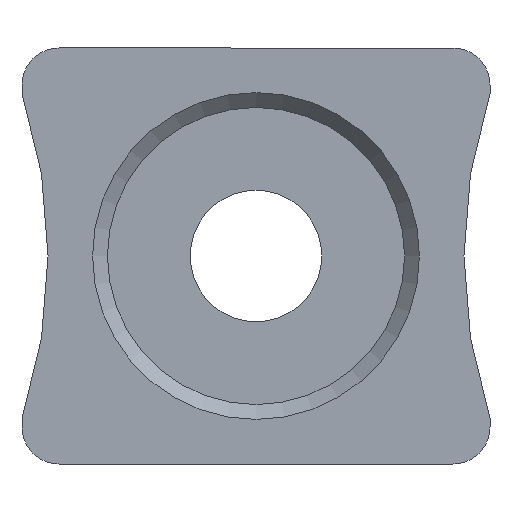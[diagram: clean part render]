
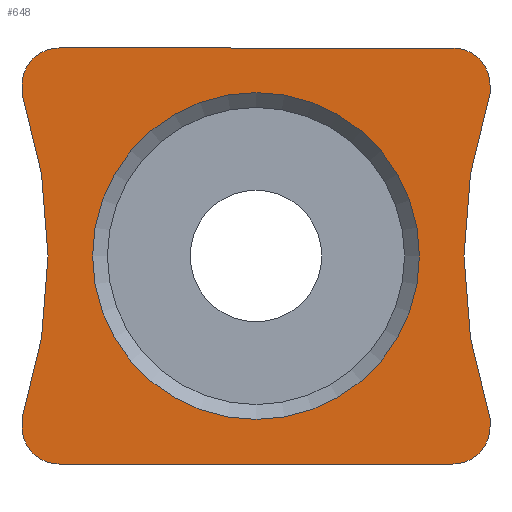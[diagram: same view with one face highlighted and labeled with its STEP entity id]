
A CAD part, left-side view. The second image highlights one B-rep face of the part: STEP entity #648.
In plain terms, the highlighted planar face has unit normal (-1, 0, 0).
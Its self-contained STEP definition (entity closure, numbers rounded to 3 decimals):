
#3 = CARTESIAN_POINT ( 'NONE',  ( 0., 9.8, 0. ) ) ;
#17 = CIRCLE ( 'NONE', #861, 2.2 ) ;
#18 = VERTEX_POINT ( 'NONE', #1011 ) ;
#30 = CARTESIAN_POINT ( 'NONE',  ( 0., 3.15, -2.8 ) ) ;
#33 = CARTESIAN_POINT ( 'NONE',  ( 0., -2.65, 2.8 ) ) ;
#38 = AXIS2_PLACEMENT_3D ( 'NONE', #714, #278, #693 ) ;
#46 = DIRECTION ( 'NONE',  ( 0., 0., -1. ) ) ;
#71 = CIRCLE ( 'NONE', #211, 7. ) ;
#73 = AXIS2_PLACEMENT_3D ( 'NONE', #3, #679, #1015 ) ;
#88 = CARTESIAN_POINT ( 'NONE',  ( 0., -3.15, -2.186 ) ) ;
#98 = VERTEX_POINT ( 'NONE', #609 ) ;
#115 = DIRECTION ( 'NONE',  ( 0., 0., -1. ) ) ;
#116 = VERTEX_POINT ( 'NONE', #275 ) ;
#128 = DIRECTION ( 'NONE',  ( 0., 0., -1. ) ) ;
#132 = CARTESIAN_POINT ( 'NONE',  ( 0., -3.15, 2.8 ) ) ;
#136 = LINE ( 'NONE', #132, #404 ) ;
#141 = VECTOR ( 'NONE', #1037, 1000. ) ;
#163 = CARTESIAN_POINT ( 'NONE',  ( 0., 3.15, 2.186 ) ) ;
#194 = CARTESIAN_POINT ( 'NONE',  ( 0., -2.65, -2.3 ) ) ;
#208 = DIRECTION ( 'NONE',  ( -1., 0., 0. ) ) ;
#211 = AXIS2_PLACEMENT_3D ( 'NONE', #908, #1058, #904 ) ;
#215 = DIRECTION ( 'NONE',  ( 1., 0., 0. ) ) ;
#222 = EDGE_CURVE ( 'NONE', #1104, #717, #331, .T. ) ;
#234 = ORIENTED_EDGE ( 'NONE', *, *, #821, .F. ) ;
#236 = ORIENTED_EDGE ( 'NONE', *, *, #496, .T. ) ;
#240 = ORIENTED_EDGE ( 'NONE', *, *, #661, .F. ) ;
#251 = CARTESIAN_POINT ( 'NONE',  ( 0., -2.65, -2.8 ) ) ;
#271 = LINE ( 'NONE', #963, #370 ) ;
#275 = CARTESIAN_POINT ( 'NONE',  ( 0., -3.15, 2.186 ) ) ;
#278 = DIRECTION ( 'NONE',  ( -1., 0., 0. ) ) ;
#303 = CARTESIAN_POINT ( 'NONE',  ( 0., 3.15, 2.8 ) ) ;
#331 = CIRCLE ( 'NONE', #846, 0.5 ) ;
#356 = CARTESIAN_POINT ( 'NONE',  ( 0., -3.15, 2.3 ) ) ;
#360 = DIRECTION ( 'NONE',  ( 0., 0., 1. ) ) ;
#370 = VECTOR ( 'NONE', #360, 1000. ) ;
#380 = PLANE ( 'NONE',  #578 ) ;
#384 = CARTESIAN_POINT ( 'NONE',  ( 0., 0., -2.2 ) ) ;
#388 = VERTEX_POINT ( 'NONE', #939 ) ;
#389 = VERTEX_POINT ( 'NONE', #163 ) ;
#404 = VECTOR ( 'NONE', #815, 1000. ) ;
#418 = EDGE_CURVE ( 'NONE', #839, #822, #544, .T. ) ;
#424 = CARTESIAN_POINT ( 'NONE',  ( 0., 3.15, 2.3 ) ) ;
#447 = DIRECTION ( 'NONE',  ( -1., 0., 0. ) ) ;
#464 = VECTOR ( 'NONE', #574, 1000. ) ;
#474 = ORIENTED_EDGE ( 'NONE', *, *, #606, .F. ) ;
#482 = EDGE_LOOP ( 'NONE', ( #744 ) ) ;
#493 = ORIENTED_EDGE ( 'NONE', *, *, #946, .T. ) ;
#496 = EDGE_CURVE ( 'NONE', #839, #388, #793, .T. ) ;
#508 = CARTESIAN_POINT ( 'NONE',  ( 0., 3.15, 2.8 ) ) ;
#543 = ORIENTED_EDGE ( 'NONE', *, *, #222, .T. ) ;
#544 = LINE ( 'NONE', #30, #141 ) ;
#552 = FACE_OUTER_BOUND ( 'NONE', #750, .T. ) ;
#558 = VECTOR ( 'NONE', #46, 1000. ) ;
#563 = ORIENTED_EDGE ( 'NONE', *, *, #600, .F. ) ;
#574 = DIRECTION ( 'NONE',  ( 0., 0., 1. ) ) ;
#578 = AXIS2_PLACEMENT_3D ( 'NONE', #733, #215, #647 ) ;
#585 = DIRECTION ( 'NONE',  ( 0., 0., -1. ) ) ;
#587 = EDGE_CURVE ( 'NONE', #922, #116, #136, .T. ) ;
#600 = EDGE_CURVE ( 'NONE', #1009, #388, #916, .T. ) ;
#606 = EDGE_CURVE ( 'NONE', #116, #1009, #71, .T. ) ;
#609 = CARTESIAN_POINT ( 'NONE',  ( 0., 3.15, -2.186 ) ) ;
#611 = AXIS2_PLACEMENT_3D ( 'NONE', #194, #447, #115 ) ;
#632 = CIRCLE ( 'NONE', #73, 7. ) ;
#636 = EDGE_CURVE ( 'NONE', #922, #1043, #1019, .T. ) ;
#647 = DIRECTION ( 'NONE',  ( 0., 0., -1. ) ) ;
#648 = ADVANCED_FACE ( 'NONE', ( #824, #552 ), #380, .F. ) ;
#661 = EDGE_CURVE ( 'NONE', #389, #717, #1074, .T. ) ;
#677 = ORIENTED_EDGE ( 'NONE', *, *, #418, .F. ) ;
#678 = LINE ( 'NONE', #508, #881 ) ;
#679 = DIRECTION ( 'NONE',  ( -1., 0., 0. ) ) ;
#685 = AXIS2_PLACEMENT_3D ( 'NONE', #980, #208, #128 ) ;
#693 = DIRECTION ( 'NONE',  ( 0., 0., -1. ) ) ;
#714 = CARTESIAN_POINT ( 'NONE',  ( 0., 2.65, -2.3 ) ) ;
#717 = VERTEX_POINT ( 'NONE', #424 ) ;
#732 = VERTEX_POINT ( 'NONE', #384 ) ;
#733 = CARTESIAN_POINT ( 'NONE',  ( 0., 0., 0. ) ) ;
#744 = ORIENTED_EDGE ( 'NONE', *, *, #802, .T. ) ;
#750 = EDGE_LOOP ( 'NONE', ( #977, #945, #234, #543, #240, #896, #997, #493, #677, #236, #563, #474 ) ) ;
#758 = DIRECTION ( 'NONE',  ( 0., 0., -1. ) ) ;
#793 = CIRCLE ( 'NONE', #611, 0.5 ) ;
#802 = EDGE_CURVE ( 'NONE', #732, #732, #17, .T. ) ;
#815 = DIRECTION ( 'NONE',  ( 0., 0., -1. ) ) ;
#821 = EDGE_CURVE ( 'NONE', #1104, #1043, #678, .T. ) ;
#822 = VERTEX_POINT ( 'NONE', #943 ) ;
#824 = FACE_BOUND ( 'NONE', #482, .T. ) ;
#839 = VERTEX_POINT ( 'NONE', #251 ) ;
#846 = AXIS2_PLACEMENT_3D ( 'NONE', #923, #1068, #585 ) ;
#861 = AXIS2_PLACEMENT_3D ( 'NONE', #1100, #938, #758 ) ;
#881 = VECTOR ( 'NONE', #925, 1000. ) ;
#896 = ORIENTED_EDGE ( 'NONE', *, *, #974, .F. ) ;
#904 = DIRECTION ( 'NONE',  ( 0., 0., 1. ) ) ;
#908 = CARTESIAN_POINT ( 'NONE',  ( 0., -9.8, 0. ) ) ;
#916 = LINE ( 'NONE', #1084, #558 ) ;
#922 = VERTEX_POINT ( 'NONE', #356 ) ;
#923 = CARTESIAN_POINT ( 'NONE',  ( 0., 2.65, 2.3 ) ) ;
#925 = DIRECTION ( 'NONE',  ( 0., -1., 0. ) ) ;
#934 = CIRCLE ( 'NONE', #38, 0.5 ) ;
#938 = DIRECTION ( 'NONE',  ( 1., 0., 0. ) ) ;
#939 = CARTESIAN_POINT ( 'NONE',  ( 0., -3.15, -2.3 ) ) ;
#941 = EDGE_CURVE ( 'NONE', #18, #98, #271, .T. ) ;
#943 = CARTESIAN_POINT ( 'NONE',  ( 0., 2.65, -2.8 ) ) ;
#945 = ORIENTED_EDGE ( 'NONE', *, *, #636, .T. ) ;
#946 = EDGE_CURVE ( 'NONE', #18, #822, #934, .T. ) ;
#963 = CARTESIAN_POINT ( 'NONE',  ( 0., 3.15, 2.8 ) ) ;
#964 = CARTESIAN_POINT ( 'NONE',  ( 0., 2.65, 2.8 ) ) ;
#974 = EDGE_CURVE ( 'NONE', #98, #389, #632, .T. ) ;
#977 = ORIENTED_EDGE ( 'NONE', *, *, #587, .F. ) ;
#980 = CARTESIAN_POINT ( 'NONE',  ( 0., -2.65, 2.3 ) ) ;
#997 = ORIENTED_EDGE ( 'NONE', *, *, #941, .F. ) ;
#1009 = VERTEX_POINT ( 'NONE', #88 ) ;
#1011 = CARTESIAN_POINT ( 'NONE',  ( 0., 3.15, -2.3 ) ) ;
#1015 = DIRECTION ( 'NONE',  ( 0., 0., 1. ) ) ;
#1019 = CIRCLE ( 'NONE', #685, 0.5 ) ;
#1037 = DIRECTION ( 'NONE',  ( 0., 1., 0. ) ) ;
#1043 = VERTEX_POINT ( 'NONE', #33 ) ;
#1058 = DIRECTION ( 'NONE',  ( -1., 0., 0. ) ) ;
#1068 = DIRECTION ( 'NONE',  ( -1., 0., 0. ) ) ;
#1074 = LINE ( 'NONE', #303, #464 ) ;
#1084 = CARTESIAN_POINT ( 'NONE',  ( 0., -3.15, 2.8 ) ) ;
#1100 = CARTESIAN_POINT ( 'NONE',  ( 0., 0., 0. ) ) ;
#1104 = VERTEX_POINT ( 'NONE', #964 ) ;
